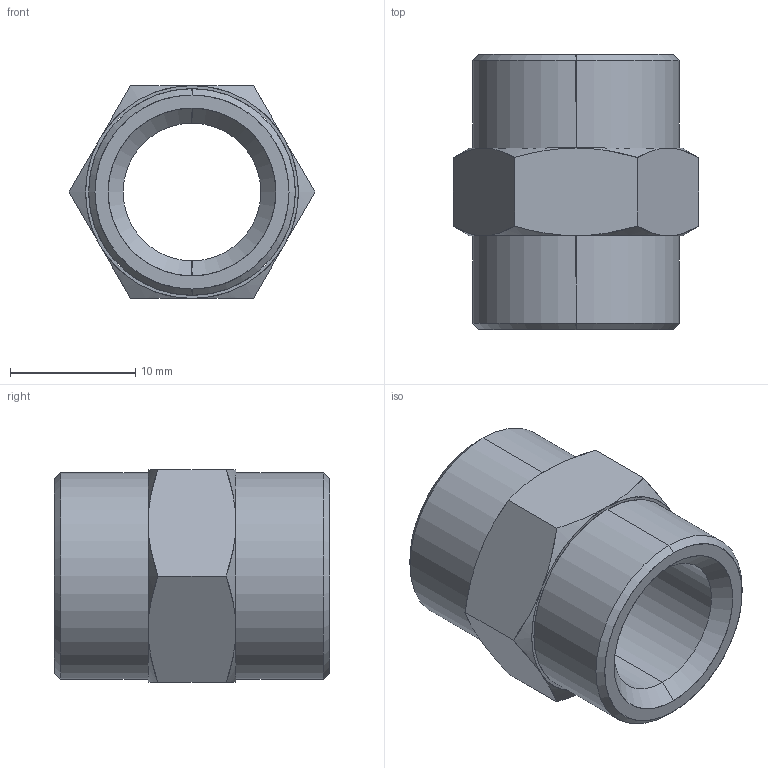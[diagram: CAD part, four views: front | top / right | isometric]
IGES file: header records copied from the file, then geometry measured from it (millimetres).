
Start section: SolidWorks IGES file using analytic representation for surfaces
Global section: file name: K:\Disegni Esecutivi\Accessori\3000\0300000010300.IGS; native system: SolidWorks 2007; preprocessor: SolidWorks 2007; author: cad02; date: 071019.140529; units: millimetre
Bounding box: 19.63 x 22 x 17 mm (x, y, z)
Surface area: 2161.2 mm2 (no closed solid volume)
Topology: 0 solids, 0 shells, 36 faces, 540 edges, 540 vertices
Faces by surface type: revolution 26, bspline 10
